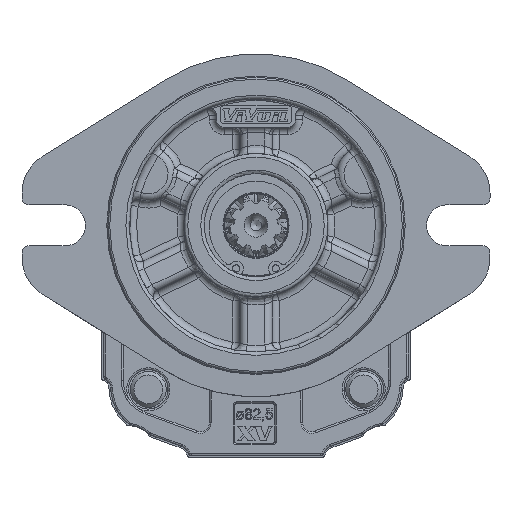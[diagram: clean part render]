
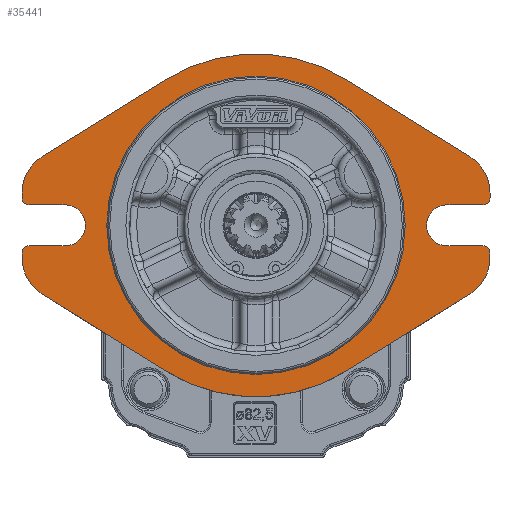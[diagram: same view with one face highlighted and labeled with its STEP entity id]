
A CAD part, front view. The second image highlights one B-rep face of the part: STEP entity #35441.
In plain terms, the highlighted planar face has unit normal (0, -1, 0).
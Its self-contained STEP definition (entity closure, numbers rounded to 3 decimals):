
#1564=LINE('',#52223,#3474);
#1568=LINE('',#52235,#3478);
#1569=LINE('',#52237,#3479);
#1576=LINE('',#52256,#3486);
#1577=LINE('',#52258,#3487);
#1584=LINE('',#52287,#3494);
#1585=LINE('',#52292,#3495);
#1586=LINE('',#52296,#3496);
#1587=LINE('',#52299,#3497);
#1588=LINE('',#52303,#3498);
#1589=LINE('',#52307,#3499);
#1590=LINE('',#52311,#3500);
#3474=VECTOR('',#41611,1000.);
#3478=VECTOR('',#41623,1000.);
#3479=VECTOR('',#41626,1000.);
#3486=VECTOR('',#41641,1000.);
#3487=VECTOR('',#41644,1000.);
#3494=VECTOR('',#41673,1000.);
#3495=VECTOR('',#41676,1000.);
#3496=VECTOR('',#41679,1000.);
#3497=VECTOR('',#41684,1000.);
#3498=VECTOR('',#41687,1000.);
#3499=VECTOR('',#41690,1000.);
#3500=VECTOR('',#41693,1000.);
#4932=PLANE('',#37383);
#8375=ORIENTED_EDGE('',*,*,#14894,.T.);
#8376=ORIENTED_EDGE('',*,*,#14895,.F.);
#8377=ORIENTED_EDGE('',*,*,#14896,.T.);
#8378=ORIENTED_EDGE('',*,*,#14897,.F.);
#8379=ORIENTED_EDGE('',*,*,#14898,.F.);
#8380=ORIENTED_EDGE('',*,*,#14899,.F.);
#8381=ORIENTED_EDGE('',*,*,#14815,.F.);
#8382=ORIENTED_EDGE('',*,*,#14864,.F.);
#8383=ORIENTED_EDGE('',*,*,#14867,.F.);
#8384=ORIENTED_EDGE('',*,*,#14870,.F.);
#8385=ORIENTED_EDGE('',*,*,#14900,.T.);
#8386=ORIENTED_EDGE('',*,*,#14871,.F.);
#8387=ORIENTED_EDGE('',*,*,#14877,.F.);
#8388=ORIENTED_EDGE('',*,*,#14880,.F.);
#8389=ORIENTED_EDGE('',*,*,#14901,.T.);
#8390=ORIENTED_EDGE('',*,*,#14881,.F.);
#8391=ORIENTED_EDGE('',*,*,#14893,.F.);
#8392=ORIENTED_EDGE('',*,*,#14902,.F.);
#8393=ORIENTED_EDGE('',*,*,#14903,.F.);
#8394=ORIENTED_EDGE('',*,*,#14904,.F.);
#8395=ORIENTED_EDGE('',*,*,#14905,.F.);
#8396=ORIENTED_EDGE('',*,*,#14906,.F.);
#8397=ORIENTED_EDGE('',*,*,#14907,.T.);
#8398=ORIENTED_EDGE('',*,*,#14908,.F.);
#8399=ORIENTED_EDGE('',*,*,#14909,.F.);
#14815=EDGE_CURVE('',#18221,#18222,#20216,.T.);
#14864=EDGE_CURVE('',#18264,#18221,#1564,.T.);
#14867=EDGE_CURVE('',#18266,#18264,#20244,.T.);
#14870=EDGE_CURVE('',#18268,#18266,#1568,.T.);
#14871=EDGE_CURVE('',#18269,#18270,#1569,.T.);
#14877=EDGE_CURVE('',#18274,#18269,#20246,.T.);
#14880=EDGE_CURVE('',#18276,#18274,#1576,.T.);
#14881=EDGE_CURVE('',#18277,#18278,#1577,.T.);
#14893=EDGE_CURVE('',#18286,#18277,#20252,.T.);
#14894=EDGE_CURVE('',#18287,#18287,#20253,.T.);
#14895=EDGE_CURVE('',#18288,#18289,#1584,.T.);
#14896=EDGE_CURVE('',#18288,#18290,#20254,.F.);
#14897=EDGE_CURVE('',#18291,#18290,#1585,.T.);
#14898=EDGE_CURVE('',#18292,#18291,#20255,.T.);
#14899=EDGE_CURVE('',#18222,#18292,#1586,.T.);
#14900=EDGE_CURVE('',#18268,#18270,#20256,.F.);
#14901=EDGE_CURVE('',#18276,#18278,#20257,.F.);
#14902=EDGE_CURVE('',#18293,#18286,#1587,.T.);
#14903=EDGE_CURVE('',#18294,#18293,#20258,.T.);
#14904=EDGE_CURVE('',#18295,#18294,#1588,.T.);
#14905=EDGE_CURVE('',#18296,#18295,#20259,.T.);
#14906=EDGE_CURVE('',#18297,#18296,#1589,.T.);
#14907=EDGE_CURVE('',#18297,#18298,#20260,.F.);
#14908=EDGE_CURVE('',#18299,#18298,#1590,.T.);
#14909=EDGE_CURVE('',#18289,#18299,#20261,.T.);
#18221=VERTEX_POINT('',#52123);
#18222=VERTEX_POINT('',#52125);
#18264=VERTEX_POINT('',#52222);
#18266=VERTEX_POINT('',#52228);
#18268=VERTEX_POINT('',#52234);
#18269=VERTEX_POINT('',#52238);
#18270=VERTEX_POINT('',#52239);
#18274=VERTEX_POINT('',#52249);
#18276=VERTEX_POINT('',#52255);
#18277=VERTEX_POINT('',#52259);
#18278=VERTEX_POINT('',#52260);
#18286=VERTEX_POINT('',#52282);
#18287=VERTEX_POINT('',#52286);
#18288=VERTEX_POINT('',#52288);
#18289=VERTEX_POINT('',#52289);
#18290=VERTEX_POINT('',#52291);
#18291=VERTEX_POINT('',#52293);
#18292=VERTEX_POINT('',#52295);
#18293=VERTEX_POINT('',#52300);
#18294=VERTEX_POINT('',#52302);
#18295=VERTEX_POINT('',#52304);
#18296=VERTEX_POINT('',#52306);
#18297=VERTEX_POINT('',#52308);
#18298=VERTEX_POINT('',#52310);
#18299=VERTEX_POINT('',#52312);
#20216=CIRCLE('',#37332,47.75);
#20244=CIRCLE('',#37366,12.);
#20246=CIRCLE('',#37371,5.7);
#20252=CIRCLE('',#37382,12.);
#20253=CIRCLE('',#37384,40.982);
#20254=CIRCLE('',#37385,2.);
#20255=CIRCLE('',#37386,12.);
#20256=CIRCLE('',#37387,2.);
#20257=CIRCLE('',#37388,2.);
#20258=CIRCLE('',#37389,47.75);
#20259=CIRCLE('',#37390,12.);
#20260=CIRCLE('',#37391,2.);
#20261=CIRCLE('',#37392,5.7);
#21733=EDGE_LOOP('',(#8375));
#21734=EDGE_LOOP('',(#8376,#8377,#8378,#8379,#8380,#8381,#8382,#8383,#8384,
#8385,#8386,#8387,#8388,#8389,#8390,#8391,#8392,#8393,#8394,#8395,#8396,
#8397,#8398,#8399));
#23485=FACE_BOUND('',#21733,.T.);
#23486=FACE_BOUND('',#21734,.T.);
#35441=ADVANCED_FACE('',(#23485,#23486),#4932,.F.);
#37332=AXIS2_PLACEMENT_3D('',#52124,#41527,#41528);
#37366=AXIS2_PLACEMENT_3D('',#52229,#41617,#41618);
#37371=AXIS2_PLACEMENT_3D('',#52250,#41635,#41636);
#37382=AXIS2_PLACEMENT_3D('',#52283,#41667,#41668);
#37383=AXIS2_PLACEMENT_3D('',#52284,#41669,#41670);
#37384=AXIS2_PLACEMENT_3D('',#52285,#41671,#41672);
#37385=AXIS2_PLACEMENT_3D('',#52290,#41674,#41675);
#37386=AXIS2_PLACEMENT_3D('',#52294,#41677,#41678);
#37387=AXIS2_PLACEMENT_3D('',#52297,#41680,#41681);
#37388=AXIS2_PLACEMENT_3D('',#52298,#41682,#41683);
#37389=AXIS2_PLACEMENT_3D('',#52301,#41685,#41686);
#37390=AXIS2_PLACEMENT_3D('',#52305,#41688,#41689);
#37391=AXIS2_PLACEMENT_3D('',#52309,#41691,#41692);
#37392=AXIS2_PLACEMENT_3D('',#52313,#41694,#41695);
#41527=DIRECTION('',(0.,1.,0.));
#41528=DIRECTION('',(-1.,0.,0.));
#41611=DIRECTION('',(-0.849,0.,-0.528));
#41617=DIRECTION('',(0.,1.,0.));
#41618=DIRECTION('',(-1.,0.,0.));
#41623=DIRECTION('',(0.,0.,-1.));
#41626=DIRECTION('',(1.,0.,0.));
#41635=DIRECTION('',(0.,-1.,0.));
#41636=DIRECTION('',(1.,0.,0.));
#41641=DIRECTION('',(-1.,0.,0.));
#41644=DIRECTION('',(0.,0.,-1.));
#41667=DIRECTION('',(0.,1.,0.));
#41668=DIRECTION('',(-1.,0.,0.));
#41669=DIRECTION('',(0.,1.,0.));
#41670=DIRECTION('',(0.,0.,-1.));
#41671=DIRECTION('',(0.,1.,0.));
#41672=DIRECTION('',(-1.,0.,0.));
#41673=DIRECTION('',(1.,0.,0.));
#41674=DIRECTION('',(0.,1.,0.));
#41675=DIRECTION('',(0.,0.,-1.));
#41676=DIRECTION('',(0.,0.,1.));
#41677=DIRECTION('',(0.,1.,0.));
#41678=DIRECTION('',(1.,0.,0.));
#41679=DIRECTION('',(-0.849,0.,0.528));
#41680=DIRECTION('',(0.,1.,0.));
#41681=DIRECTION('',(0.,0.,-1.));
#41682=DIRECTION('',(0.,1.,0.));
#41683=DIRECTION('',(0.,0.,-1.));
#41684=DIRECTION('',(0.849,0.,-0.528));
#41685=DIRECTION('',(0.,1.,0.));
#41686=DIRECTION('',(-1.,0.,0.));
#41687=DIRECTION('',(0.849,0.,0.528));
#41688=DIRECTION('',(0.,1.,0.));
#41689=DIRECTION('',(1.,0.,0.));
#41690=DIRECTION('',(0.,0.,1.));
#41691=DIRECTION('',(0.,1.,0.));
#41692=DIRECTION('',(0.,0.,-1.));
#41693=DIRECTION('',(-1.,0.,0.));
#41694=DIRECTION('',(0.,-1.,0.));
#41695=DIRECTION('',(-1.,0.,0.));
#52123=CARTESIAN_POINT('',(25.235,-19.,-24.837));
#52124=CARTESIAN_POINT('',(0.,-19.,15.7));
#52125=CARTESIAN_POINT('',(-25.235,-19.,-24.837));
#52222=CARTESIAN_POINT('',(59.532,-19.,-3.487));
#52223=CARTESIAN_POINT('',(59.532,-19.,-3.487));
#52228=CARTESIAN_POINT('',(65.19,-19.,6.7));
#52229=CARTESIAN_POINT('',(53.19,-19.,6.7));
#52234=CARTESIAN_POINT('',(65.19,-19.,8.));
#52235=CARTESIAN_POINT('',(65.19,-19.,6.7));
#52237=CARTESIAN_POINT('',(53.19,-19.,10.));
#52238=CARTESIAN_POINT('',(53.19,-19.,10.));
#52239=CARTESIAN_POINT('',(63.19,-19.,10.));
#52249=CARTESIAN_POINT('',(53.19,-19.,21.4));
#52250=CARTESIAN_POINT('',(53.19,-19.,15.7));
#52255=CARTESIAN_POINT('',(63.19,-19.,21.4));
#52256=CARTESIAN_POINT('',(53.19,-19.,21.4));
#52258=CARTESIAN_POINT('',(65.19,-19.,24.7));
#52259=CARTESIAN_POINT('',(65.19,-19.,24.7));
#52260=CARTESIAN_POINT('',(65.19,-19.,23.4));
#52282=CARTESIAN_POINT('',(59.532,-19.,34.887));
#52283=CARTESIAN_POINT('',(53.19,-19.,24.7));
#52284=CARTESIAN_POINT('',(0.,-19.,15.7));
#52285=CARTESIAN_POINT('',(0.,-19.,15.7));
#52286=CARTESIAN_POINT('',(-40.982,-19.,15.7));
#52287=CARTESIAN_POINT('',(-53.19,-19.,10.));
#52288=CARTESIAN_POINT('',(-63.19,-19.,10.));
#52289=CARTESIAN_POINT('',(-53.19,-19.,10.));
#52290=CARTESIAN_POINT('',(-63.19,-19.,8.));
#52291=CARTESIAN_POINT('',(-65.19,-19.,8.));
#52292=CARTESIAN_POINT('',(-65.19,-19.,6.7));
#52293=CARTESIAN_POINT('',(-65.19,-19.,6.7));
#52294=CARTESIAN_POINT('',(-53.19,-19.,6.7));
#52295=CARTESIAN_POINT('',(-59.532,-19.,-3.487));
#52296=CARTESIAN_POINT('',(-59.532,-19.,-3.487));
#52297=CARTESIAN_POINT('',(63.19,-19.,8.));
#52298=CARTESIAN_POINT('',(63.19,-19.,23.4));
#52299=CARTESIAN_POINT('',(25.235,-19.,56.237));
#52300=CARTESIAN_POINT('',(25.235,-19.,56.237));
#52301=CARTESIAN_POINT('',(0.,-19.,15.7));
#52302=CARTESIAN_POINT('',(-25.235,-19.,56.237));
#52303=CARTESIAN_POINT('',(-25.235,-19.,56.237));
#52304=CARTESIAN_POINT('',(-59.532,-19.,34.887));
#52305=CARTESIAN_POINT('',(-53.19,-19.,24.7));
#52306=CARTESIAN_POINT('',(-65.19,-19.,24.7));
#52307=CARTESIAN_POINT('',(-65.19,-19.,24.7));
#52308=CARTESIAN_POINT('',(-65.19,-19.,23.4));
#52309=CARTESIAN_POINT('',(-63.19,-19.,23.4));
#52310=CARTESIAN_POINT('',(-63.19,-19.,21.4));
#52311=CARTESIAN_POINT('',(-53.19,-19.,21.4));
#52312=CARTESIAN_POINT('',(-53.19,-19.,21.4));
#52313=CARTESIAN_POINT('',(-53.19,-19.,15.7));
